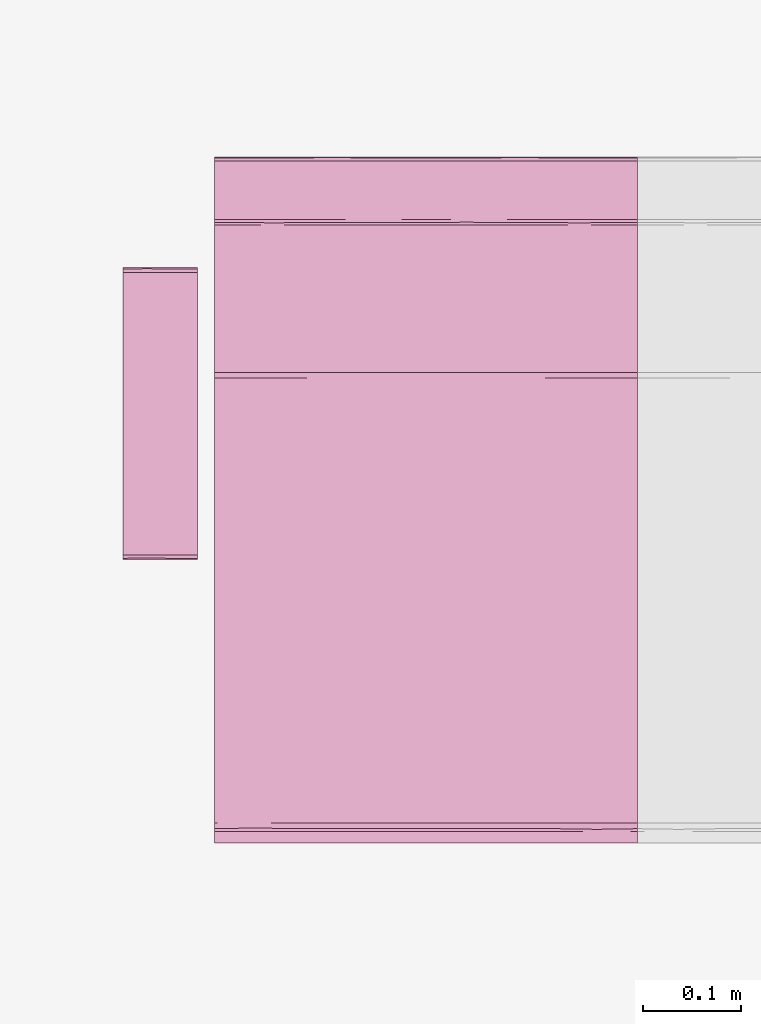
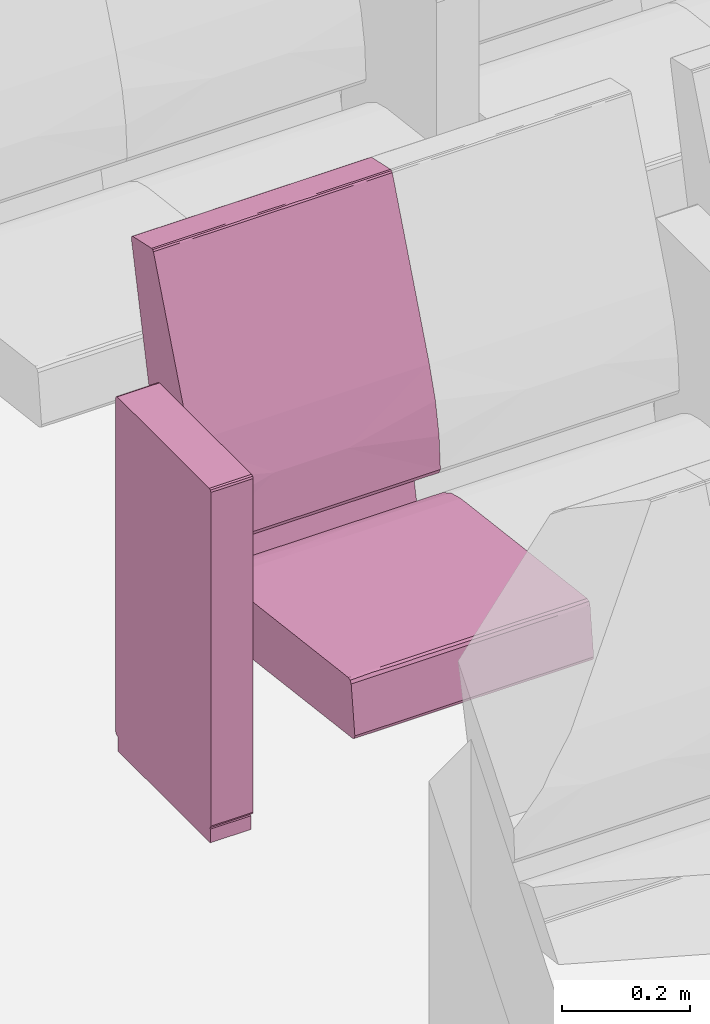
# One storey, part 105 of 155: 1 furnishing.
"""IFC2X3 building model written with IfcOpenShell, lengths in metres."""

from ifc_helpers import new_model, entity, si_unit, converted_unit, derived_unit, direction, frame, origin, place, context, subcontext, project, spatial, faceted_brep, source, transform, mapped, material, material_list, type_object, type_shapes, element, save


model = new_model("IFC2X3")

# Units and contexts
model_context = context("Model", 3, precision=1e-05, world=origin(), true_north=direction((6.12303176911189e-17, 1.0)))
body_context = subcontext(model_context, "Body", "Model", "MODEL_VIEW")
ifc_project = project(units=[si_unit("LENGTHUNIT", "METRE"), si_unit("AREAUNIT", "SQUARE_METRE"), si_unit("VOLUMEUNIT", "CUBIC_METRE"), converted_unit("PLANEANGLEUNIT", "DEGREE", entity("IfcRatioMeasure", 0.0174532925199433), si_unit("PLANEANGLEUNIT", "RADIAN"), dimensions=[0, 0, 0, 0, 0, 0, 0]), si_unit("MASSUNIT", "GRAM", prefix="KILO"), derived_unit("MASSDENSITYUNIT", [(si_unit("MASSUNIT", "GRAM", prefix="KILO"), 1), (si_unit("LENGTHUNIT", "METRE"), -3)]), si_unit("TIMEUNIT", "SECOND"), si_unit("FREQUENCYUNIT", "HERTZ"), si_unit("THERMODYNAMICTEMPERATUREUNIT", "DEGREE_CELSIUS"), derived_unit("THERMALTRANSMITTANCEUNIT", [(si_unit("MASSUNIT", "GRAM", prefix="KILO"), 1), (si_unit("THERMODYNAMICTEMPERATUREUNIT", "KELVIN"), -1), (si_unit("TIMEUNIT", "SECOND"), -3)]), derived_unit("VOLUMETRICFLOWRATEUNIT", [(si_unit("LENGTHUNIT", "METRE"), 3), (si_unit("TIMEUNIT", "SECOND"), -1)]), si_unit("ELECTRICCURRENTUNIT", "AMPERE"), si_unit("ELECTRICVOLTAGEUNIT", "VOLT"), si_unit("POWERUNIT", "WATT"), si_unit("FORCEUNIT", "NEWTON", prefix="KILO"), si_unit("ILLUMINANCEUNIT", "LUX"), si_unit("LUMINOUSFLUXUNIT", "LUMEN"), si_unit("LUMINOUSINTENSITYUNIT", "CANDELA"), derived_unit("USERDEFINED", [(si_unit("MASSUNIT", "GRAM", prefix="KILO"), -1), (si_unit("LENGTHUNIT", "METRE"), -2), (si_unit("TIMEUNIT", "SECOND"), 3), (si_unit("LUMINOUSFLUXUNIT", "LUMEN"), 1)]), derived_unit("LINEARVELOCITYUNIT", [(si_unit("LENGTHUNIT", "METRE"), 1), (si_unit("TIMEUNIT", "SECOND"), -1)]), si_unit("PRESSUREUNIT", "PASCAL"), derived_unit("USERDEFINED", [(si_unit("LENGTHUNIT", "METRE"), -2), (si_unit("MASSUNIT", "GRAM", prefix="KILO"), 1), (si_unit("TIMEUNIT", "SECOND"), -2)])], contexts=[model_context])

# Site, building, storey, space
site_placement = place(None, frame((26.9889013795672, -17.5624287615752, 0.0)))
site = spatial("IfcSite", under=ifc_project, at=site_placement, Name="Default", CompositionType="ELEMENT")
building_placement = place(site_placement, origin())
building = spatial("IfcBuilding", under=site, at=building_placement, Name="C. C. L. Monsenhor Antônio Sampaio", CompositionType="ELEMENT")
storey_placement = place(building_placement, frame((0.0, 0.0, 1.19999999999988)))
storey = spatial("IfcBuildingStorey", under=building, at=storey_placement, Name="Nível 1.2", CompositionType="ELEMENT", Elevation=1.19999999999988)
space_placement = place(storey_placement, origin())
space = spatial("IfcSpace", under=storey, at=space_placement, Name="94", CompositionType="ELEMENT", InteriorOrExteriorSpace="INTERNAL")

# Furnishing
ifc_material_1 = material(Name="V9 - V9 - Ecopelle_672_658")
ifc_material_2 = material(Name="V9 - V9 - RAL_9006_Grigio")
ifc_material_list_1 = material_list([ifc_material_1, ifc_material_2])
ifc_material_list_2 = material_list([ifc_material_1, ifc_material_2])
furniture_type = type_object("IfcFurnitureType", Name="Cadeira auditório", material=ifc_material_list_2)
shared_shape = source(origin(), body_context, "Body", "Brep", [
    faceted_brep([(0.405536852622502, 0.156348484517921, 0.339809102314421), (0.410560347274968, 0.131924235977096, 0.34246450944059), (0.405536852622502, 0.1075, 0.339809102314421), (0.405536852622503, 0.0537499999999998, 0.339809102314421), (0.410597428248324, 0.084060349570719, 0.342506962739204), (0.41079981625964, 0.0179166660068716, 0.342749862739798), (0.405536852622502, 0.215, 0.339809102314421), (0.410248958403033, 0.173608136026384, 0.342130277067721), (0.412515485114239, 0.185674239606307, 0.348529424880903), (0.412515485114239, 0.143333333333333, 0.348529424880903), (0.410560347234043, -0.131924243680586, 0.342464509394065), (0.405536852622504, -0.156348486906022, 0.33980910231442), (0.405536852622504, -0.1075, 0.33980910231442), (0.405536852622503, 0.0, 0.33980910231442), (0.41251548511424, 0.0, 0.348529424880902), (0.411170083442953, -0.0341365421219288, 0.343251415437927), (0.41059742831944, -0.0840603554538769, 0.342506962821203), (0.41251548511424, -0.143333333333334, 0.348529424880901), (0.412515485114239, 0.0358333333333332, 0.348529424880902), (0.412515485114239, 0.0716666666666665, 0.348529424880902), (0.405536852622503, -0.0537500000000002, 0.33980910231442), (0.412515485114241, -0.185674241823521, 0.348529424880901), (0.410799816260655, -0.215, 0.342749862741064), (0.410248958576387, -0.173608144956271, 0.342130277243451), (0.410799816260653, 0.215, 0.342749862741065), (0.412515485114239, 0.215, 0.348529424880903), (0.412515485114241, -0.215, 0.348529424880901), (0.41251548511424, -0.0716666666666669, 0.348529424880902), (0.405536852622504, -0.215, 0.33980910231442), (-0.0557900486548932, -0.215, 0.28268145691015), (-0.055790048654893, -0.168631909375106, 0.282681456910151), (-0.0557900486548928, -0.138065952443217, 0.282681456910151), (-0.0557900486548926, -0.107499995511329, 0.282681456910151), (-0.0557900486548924, -0.0806249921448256, 0.282681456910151), (-0.0557900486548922, -0.0537499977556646, 0.282681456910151), (-0.0557900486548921, -0.0268750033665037, 0.282681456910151), (-0.0557900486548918, 0.0, 0.28268145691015), (-0.0557900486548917, 0.0268749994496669, 0.282681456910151), (-0.0557900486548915, 0.0537499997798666, 0.282681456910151), (-0.0557900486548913, 0.0806250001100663, 0.282681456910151), (-0.0557900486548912, 0.107499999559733, 0.282681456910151), (-0.055790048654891, 0.134374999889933, 0.282681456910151), (-0.0557900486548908, 0.161250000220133, 0.282681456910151), (-0.0557900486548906, 0.1881249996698, 0.282681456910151), (-0.0557900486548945, 0.215, 0.28268145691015), (-0.0594787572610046, -0.0152829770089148, 0.283700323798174), (-0.0613666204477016, 0.0, 0.287029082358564), (-0.0594787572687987, 0.0179017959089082, 0.283700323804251), (-0.0613666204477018, 0.191815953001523, 0.287029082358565), (-0.0613666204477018, 0.215, 0.287029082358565), (-0.0594787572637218, 0.215, 0.283700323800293), (-0.0593340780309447, 0.0671874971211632, 0.283591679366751), (-0.0613666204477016, 0.030565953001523, 0.287029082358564), (-0.0594787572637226, -0.215, 0.283700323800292), (-0.0593337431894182, -0.184174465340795, 0.283591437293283), (-0.0613666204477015, -0.122263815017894, 0.287029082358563), (-0.0613666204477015, -0.0916978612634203, 0.287029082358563), (-0.0613666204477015, -0.0611319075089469, 0.287029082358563), (-0.0593023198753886, -0.0940625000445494, 0.283568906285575), (-0.059382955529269, 0.118123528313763, 0.28362747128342), (-0.0613666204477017, 0.122263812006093, 0.287029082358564), (-0.0597338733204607, 0.147039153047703, 0.283913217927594), (-0.0613666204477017, 0.168631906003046, 0.287029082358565), (-0.0592501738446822, 0.180223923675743, 0.283532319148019), (-0.0588783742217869, 0.0926899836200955, 0.283298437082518), (-0.0613666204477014, -0.215, 0.287029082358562), (-0.0613666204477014, -0.168631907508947, 0.287029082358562), (-0.0592576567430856, -0.123736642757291, 0.283537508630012), (-0.0594787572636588, -0.153348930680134, 0.283700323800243), (-0.0613666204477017, 0.0916978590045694, 0.287029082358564), (-0.0613666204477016, -0.0305659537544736, 0.287029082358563), (-0.059645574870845, -0.045848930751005, 0.283836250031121), (-0.0613666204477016, 0.0611319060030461, 0.287029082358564), (-0.069340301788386, -0.215, 0.351419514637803), (-0.0693403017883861, -0.143333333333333, 0.351419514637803), (-0.0693403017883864, -0.0716666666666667, 0.351419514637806), (-0.0693403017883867, 0.0, 0.351419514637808), (-0.069340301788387, 0.0716666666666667, 0.351419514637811), (-0.0693403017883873, 0.143333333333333, 0.351419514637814), (-0.0693403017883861, 0.215, 0.351419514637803), (-0.0597085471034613, 0.0, 0.37476954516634), (-0.0645543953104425, 0.112272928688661, 0.369803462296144), (-0.0653387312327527, 0.0126787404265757, 0.368680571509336), (-0.0681665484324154, -0.0888707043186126, 0.36292533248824), (-0.0655136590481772, -0.10440004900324, 0.368411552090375), (-0.0694879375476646, 0.0590582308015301, 0.356377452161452), (-0.0695056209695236, -0.125492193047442, 0.356093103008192), (-0.0597085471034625, -0.110316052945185, 0.374769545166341), (-0.0690003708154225, 0.132942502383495, 0.359900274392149), (-0.0672851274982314, 0.108066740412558, 0.365148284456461), (-0.0676206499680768, 0.215, 0.364371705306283), (-0.0686241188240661, 0.215, 0.356813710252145), (-0.0686241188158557, -0.214999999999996, 0.356813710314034), (-0.0686999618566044, 0.0358333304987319, 0.36116674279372), (-0.0694502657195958, -0.0358333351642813, 0.356863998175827), (-0.0676206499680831, -0.214999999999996, 0.364371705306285), (-0.0636645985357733, -0.214999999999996, 0.369570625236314), (-0.0597085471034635, -0.214999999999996, 0.374769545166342), (-0.0597085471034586, 0.215, 0.374769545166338), (-0.0636645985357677, 0.215, 0.36957062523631), (-0.0597085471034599, 0.110316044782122, 0.374769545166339), (-0.0324117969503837, 0.215, 0.390639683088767), (-0.0324117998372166, 0.0436847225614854, 0.39063968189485), (-0.0018793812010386, 0.215, 0.398686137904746), (-0.041847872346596, -0.0856576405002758, 0.386239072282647), (-0.0324117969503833, -0.215, 0.390639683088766), (-0.00187938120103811, -0.215, 0.398686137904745), (-0.00187938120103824, -0.102488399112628, 0.398686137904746), (-0.0219042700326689, -0.0570631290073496, 0.394412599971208), (-0.00187938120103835, 0.0, 0.398686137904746), (0.392202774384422, 0.215, 0.447486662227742), (0.392202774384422, -0.215, 0.447486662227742), (0.392202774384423, -0.156349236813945, 0.447486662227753), (0.392202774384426, -0.107499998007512, 0.447486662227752), (0.392202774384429, -0.0537500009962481, 0.44748666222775), (0.392202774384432, 0.0, 0.447486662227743), (0.392202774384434, 0.0537499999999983, 0.447486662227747), (0.392202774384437, 0.107499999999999, 0.447486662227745), (0.392202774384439, 0.156349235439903, 0.447486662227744), (0.398104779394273, -0.131924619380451, 0.445856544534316), (0.401125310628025, -0.0976984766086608, 0.440530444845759), (0.397860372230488, -0.0827732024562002, 0.446039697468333), (0.401125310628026, -0.215000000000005, 0.440530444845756), (0.401125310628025, -0.156349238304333, 0.440530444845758), (0.397373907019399, -0.173462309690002, 0.446363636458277), (0.398104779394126, -0.215000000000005, 0.445856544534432), (0.397860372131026, 0.0827731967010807, 0.446039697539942), (0.398104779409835, 0.131924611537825, 0.445856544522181), (0.398104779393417, -0.0237489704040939, 0.445856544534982), (0.398104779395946, 0.0268749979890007, 0.445856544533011), (0.401125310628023, 0.0488492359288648, 0.440530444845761), (0.401125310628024, -0.0488492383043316, 0.440530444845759), (0.398774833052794, 0.173462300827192, 0.445271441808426), (0.401125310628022, 0.097698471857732, 0.440530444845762), (0.401125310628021, 0.215, 0.440530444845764), (0.39810477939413, 0.215, 0.445856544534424), (0.401125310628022, 0.156349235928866, 0.440530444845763), (0.401125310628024, 0.0, 0.44053044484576)], [[[0, 1, 2]], [[3, 4, 5]], [[6, 7, 0]], [[7, 8, 9]], [[10, 11, 12]], [[3, 5, 13]], [[14, 15, 5]], [[16, 17, 10]], [[9, 1, 7]], [[18, 5, 4]], [[4, 9, 19, 18]], [[9, 4, 1]], [[2, 1, 4]], [[13, 15, 20]], [[21, 22, 23]], [[5, 18, 14]], [[24, 25, 8]], [[22, 21, 26]], [[24, 7, 6]], [[23, 11, 10]], [[20, 15, 16]], [[3, 2, 4]], [[14, 27, 15]], [[5, 15, 13]], [[27, 17, 16]], [[10, 12, 16]], [[21, 23, 17]], [[20, 16, 12]], [[15, 27, 16]], [[7, 1, 0]], [[28, 11, 23]], [[8, 7, 24]], [[23, 10, 17]], [[28, 23, 22]], [[28, 29, 30, 31, 32, 33, 34, 35, 36, 37, 38, 39, 40, 41, 42, 43, 44, 6, 0, 2, 3, 13, 20, 12, 11]], [[45, 46, 47]], [[48, 49, 50]], [[51, 47, 52]], [[29, 53, 54]], [[55, 56, 57, 58]], [[59, 60, 61]], [[61, 62, 63]], [[51, 64, 39]], [[65, 66, 54]], [[31, 67, 32]], [[45, 47, 38, 37, 36, 35]], [[68, 31, 30]], [[43, 50, 44]], [[63, 42, 61]], [[48, 50, 63]], [[64, 69, 59]], [[68, 54, 66]], [[63, 62, 48]], [[50, 43, 63]], [[67, 55, 58]], [[61, 42, 41]], [[45, 70, 46]], [[55, 68, 66]], [[71, 33, 58]], [[71, 57, 70]], [[41, 40, 59]], [[60, 62, 61]], [[71, 35, 34, 33]], [[35, 71, 45]], [[47, 46, 52]], [[45, 71, 70]], [[58, 57, 71]], [[32, 58, 33]], [[31, 68, 67]], [[54, 68, 30]], [[29, 54, 30]], [[54, 53, 65]], [[55, 67, 68]], [[32, 67, 58]], [[51, 52, 72, 69]], [[43, 42, 63]], [[41, 59, 61]], [[47, 51, 38]], [[40, 39, 64]], [[38, 51, 39]], [[69, 60, 59]], [[69, 64, 51]], [[40, 64, 59]], [[65, 73, 74, 75, 76, 77, 78, 79, 49, 48, 62, 60, 69, 72, 52, 46, 70, 57, 56, 55, 66]], [[80, 81, 82]], [[82, 83, 84]], [[78, 77, 76, 85]], [[86, 75, 74]], [[84, 80, 82]], [[80, 84, 87]], [[88, 89, 90]], [[91, 79, 78]], [[74, 73, 92]], [[85, 88, 91]], [[81, 89, 82]], [[93, 94, 83]], [[94, 86, 83]], [[85, 76, 94]], [[92, 86, 74]], [[85, 94, 93]], [[83, 92, 95]], [[75, 94, 76]], [[93, 83, 82]], [[95, 96, 84]], [[88, 85, 93]], [[96, 97, 87]], [[98, 99, 100]], [[78, 85, 91]], [[89, 88, 93]], [[90, 91, 88]], [[93, 82, 89]], [[81, 99, 89]], [[99, 90, 89]], [[100, 81, 80]], [[100, 99, 81]], [[83, 86, 92]], [[75, 86, 94]], [[95, 84, 83]], [[87, 84, 96]], [[101, 102, 103]], [[104, 80, 87, 97]], [[105, 106, 107]], [[107, 108, 105]], [[103, 102, 109]], [[104, 102, 80]], [[104, 108, 102]], [[98, 102, 101]], [[105, 104, 97]], [[105, 108, 104]], [[102, 98, 100, 80]], [[109, 108, 107]], [[109, 102, 108]], [[110, 103, 109, 107, 106, 111, 112, 113, 114, 115, 116, 117, 118]], [[119, 120, 121]], [[122, 123, 124]], [[111, 125, 124]], [[117, 116, 126]], [[124, 119, 112]], [[113, 112, 119]], [[127, 118, 117]], [[115, 114, 128, 129, 116]], [[129, 130, 126]], [[121, 131, 128]], [[127, 132, 118]], [[110, 118, 132]], [[127, 126, 133]], [[119, 124, 123]], [[134, 135, 132]], [[136, 132, 127]], [[120, 119, 123]], [[133, 136, 127]], [[137, 130, 129, 128, 131]], [[126, 127, 117]], [[130, 133, 126]], [[113, 119, 121]], [[129, 126, 116]], [[128, 114, 121]], [[114, 113, 121]], [[131, 121, 120]], [[111, 124, 112]], [[124, 125, 122]], [[134, 132, 136]], [[132, 135, 110]], [[19, 9, 8, 25, 134, 136, 133, 130, 137, 131, 120, 123, 122, 26, 21, 17, 27, 14, 18]], [[65, 53, 29, 28, 22, 26, 122, 125, 111, 106, 105, 97, 96, 95, 92, 73]], [[98, 101, 103, 110, 135, 134, 25, 24, 6, 44, 50, 49, 79, 91, 90, 99]]]),
    faceted_brep([(0.123144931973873, -0.283972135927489, 0.673627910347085), (0.12334838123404, -0.259944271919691, 0.6734355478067), (0.119812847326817, -0.27, 0.674900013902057), (0.124812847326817, -0.27, 0.669900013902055), (0.12334838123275, -0.232, 0.673435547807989), (0.119812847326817, -0.232, 0.674900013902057), (0.124812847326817, -0.308, 0.669900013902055), (0.119812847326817, -0.308, 0.674900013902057), (0.124812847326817, -0.249888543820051, 0.669900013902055), (0.124812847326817, -0.232, 0.669900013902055), (0.12334838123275, -0.308, 0.673435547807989), (0.124812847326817, -0.27, 0.035), (0.124812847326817, -0.232, 0.035), (0.124812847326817, -0.308, 0.0350000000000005), (0.123540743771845, -0.283972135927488, 0.0316679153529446), (0.12334838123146, -0.25994427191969, 0.0314644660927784), (0.119812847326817, -0.27, 0.0300000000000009), (0.12334838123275, -0.232, 0.0314644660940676), (0.119812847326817, -0.308, 0.0300000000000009), (0.119812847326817, -0.249888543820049, 0.030000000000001), (0.119812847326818, -0.232, 0.030000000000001), (0.123348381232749, -0.308, 0.0314644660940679), (-0.167179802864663, -0.308, 0.0300000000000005), (-0.167179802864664, -0.27, 0.0300000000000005), (-0.167179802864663, -0.232, 0.0300000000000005), (-0.17051188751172, -0.283972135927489, 0.0312721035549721), (-0.170715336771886, -0.25994427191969, 0.0314644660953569), (-0.172179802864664, -0.27, 0.0350000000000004), (-0.170715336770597, -0.232, 0.0314644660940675), (-0.172179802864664, -0.308, 0.0350000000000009), (-0.172179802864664, -0.24988854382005, 0.0350000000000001), (-0.172179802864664, -0.232, 0.0349999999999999), (-0.170715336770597, -0.308, 0.0314644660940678), (-0.172179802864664, -0.308, 0.669900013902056), (-0.172179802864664, -0.27, 0.669900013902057), (-0.172179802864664, -0.232, 0.669900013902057), (-0.170907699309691, -0.283972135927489, 0.673232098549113), (-0.170715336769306, -0.259944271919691, 0.673435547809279), (-0.167179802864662, -0.27, 0.674900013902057), (-0.170715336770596, -0.232, 0.67343554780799), (-0.167179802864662, -0.308, 0.674900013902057), (-0.167179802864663, -0.249888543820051, 0.674900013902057), (-0.167179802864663, -0.232, 0.674900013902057), (-0.170715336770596, -0.308, 0.67343554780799)], [[[0, 1, 2]], [[1, 0, 3]], [[1, 4, 5, 2]], [[6, 3, 0]], [[7, 0, 2]], [[4, 1, 3, 8, 9]], [[10, 0, 7]], [[0, 10, 6]], [[11, 12, 9, 8, 3, 6, 13]], [[14, 15, 11]], [[15, 14, 16]], [[15, 17, 12, 11]], [[18, 16, 14]], [[13, 14, 11]], [[17, 15, 16, 19, 20]], [[21, 14, 13]], [[14, 21, 18]], [[18, 22, 23, 24, 20, 19, 16]], [[25, 26, 23]], [[26, 25, 27]], [[26, 28, 24, 23]], [[29, 27, 25]], [[22, 25, 23]], [[28, 26, 27, 30, 31]], [[32, 25, 22]], [[25, 32, 29]], [[27, 29, 33, 34, 35, 31, 30]], [[36, 37, 34]], [[37, 36, 38]], [[37, 39, 35, 34]], [[40, 38, 36]], [[33, 36, 34]], [[39, 37, 38, 41, 42]], [[43, 36, 33]], [[36, 43, 40]], [[40, 7, 2, 5, 42, 41, 38]], [[35, 39, 42, 5, 4, 9, 12, 17, 20, 24, 28, 31]], [[29, 32, 22, 18, 21, 13, 6, 10, 7, 40, 43, 33]]]),
    faceted_brep([(-0.0695672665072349, 0.215, 0.476508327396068), (-0.074405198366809, 0.0524423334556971, 0.506888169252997), (-0.0655618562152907, 0.215, 0.415143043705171), (-0.0744051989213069, -0.0780075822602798, 0.506888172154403), (-0.0655618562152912, 0.0, 0.415143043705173), (-0.0655618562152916, -0.215, 0.415143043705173), (-0.0655618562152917, -0.1075, 0.415143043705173), (-0.0655618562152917, 0.1075, 0.415143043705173), (-0.0695672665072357, -0.215, 0.476508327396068), (-0.081111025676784, -0.215, 0.536911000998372), (-0.0811110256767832, 0.215, 0.536911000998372), (-0.100016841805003, 0.215, 0.595428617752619), (-0.100016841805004, 0.0, 0.595428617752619), (-0.100016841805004, -0.215, 0.595428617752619), (-0.0698317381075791, 0.0358333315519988, 0.406528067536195), (-0.0792851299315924, 0.0, 0.404772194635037), (-0.0792851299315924, 0.0716666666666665, 0.404772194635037), (-0.0792851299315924, -0.215, 0.404772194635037), (-0.0792851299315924, -0.143333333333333, 0.404772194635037), (-0.0698317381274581, -0.215, 0.406528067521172), (-0.0792851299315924, 0.143333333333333, 0.404772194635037), (-0.0792851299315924, 0.215, 0.404772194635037), (-0.0698317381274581, 0.215, 0.406528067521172), (-0.0694171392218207, 0.140338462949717, 0.406857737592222), (-0.0708115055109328, -0.0356393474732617, 0.405868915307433), (-0.0703502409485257, -0.107500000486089, 0.406159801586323), (-0.0792851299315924, -0.0716666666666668, 0.404772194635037), (-0.163837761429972, -0.215, 0.420611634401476), (-0.163837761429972, 0.215, 0.420611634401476), (-0.123612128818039, 0.215, 0.235917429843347), (-0.123612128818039, -0.215, 0.235917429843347), (-0.142059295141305, -0.215, 0.231899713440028), (-0.142059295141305, 0.215, 0.231899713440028), (-0.235388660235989, -0.215, 0.652619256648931), (-0.235388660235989, 0.215, 0.652619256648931), (-0.28428001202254, -0.215, 0.873004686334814), (-0.284280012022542, -0.191295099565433, 0.873004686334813), (-0.284280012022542, -0.161249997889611, 0.873004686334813), (-0.284280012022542, -0.134374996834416, 0.873004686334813), (-0.284280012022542, -0.107499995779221, 0.873004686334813), (-0.284280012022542, -0.0806249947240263, 0.873004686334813), (-0.284280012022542, -0.0537499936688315, 0.873004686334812), (-0.284280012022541, -0.0268749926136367, 0.873004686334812), (-0.28428001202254, 0.0, 0.873004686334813), (-0.284280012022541, 0.0268749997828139, 0.873004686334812), (-0.284280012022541, 0.0537500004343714, 0.873004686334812), (-0.284280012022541, 0.0806250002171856, 0.873004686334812), (-0.284280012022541, 0.1075, 0.873004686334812), (-0.284280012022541, 0.134374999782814, 0.873004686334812), (-0.28428001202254, 0.161249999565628, 0.873004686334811), (-0.28428001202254, 0.191295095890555, 0.873004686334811), (-0.28428001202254, 0.215, 0.873004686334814), (-0.283746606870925, 0.0872244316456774, 0.876674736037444), (-0.283504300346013, 0.0569644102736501, 0.877068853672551), (-0.283567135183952, -0.15546176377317, 0.876973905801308), (-0.283641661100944, -0.12093750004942, 0.87685511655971), (-0.283567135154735, 0.155461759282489, 0.876973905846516), (-0.28330409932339, 0.185293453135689, 0.877344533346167), (-0.283641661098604, 0.0179166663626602, 0.876855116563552), (-0.283641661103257, -0.0136463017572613, 0.876855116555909), (-0.280514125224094, -0.0358333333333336, 0.879190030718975), (-0.280514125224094, 0.0, 0.879190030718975), (-0.280514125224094, 0.0358333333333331, 0.879190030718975), (-0.280514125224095, -0.143333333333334, 0.879190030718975), (-0.280514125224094, -0.1075, 0.879190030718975), (-0.280514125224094, -0.071666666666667, 0.879190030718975), (-0.283746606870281, -0.0872244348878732, 0.876674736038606), (-0.280514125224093, 0.0716666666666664, 0.879190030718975), (-0.280514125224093, 0.1075, 0.879190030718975), (-0.283641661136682, 0.120937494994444, 0.876855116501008), (-0.280514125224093, 0.143333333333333, 0.879190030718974), (-0.283641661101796, 0.215, 0.876855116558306), (-0.283641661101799, -0.215, 0.876855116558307), (-0.283304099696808, -0.18529345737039, 0.877344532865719), (-0.280514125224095, -0.167590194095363, 0.879190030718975), (-0.280514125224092, 0.215, 0.879190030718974), (-0.280514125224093, 0.167590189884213, 0.879190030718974), (-0.280514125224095, -0.215, 0.879190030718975), (-0.283504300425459, -0.0569644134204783, 0.8770688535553), (-0.22111253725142, 0.215, 0.892176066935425), (-0.22111253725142, -0.215, 0.892176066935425), (-0.221112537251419, -0.191815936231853, 0.892176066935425), (-0.221112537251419, -0.161250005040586, 0.892176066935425), (-0.221112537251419, -0.134375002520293, 0.892176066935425), (-0.221112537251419, -0.1075, 0.892176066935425), (-0.221112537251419, -0.080624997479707, 0.892176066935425), (-0.221112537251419, -0.0537499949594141, 0.892176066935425), (-0.221112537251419, -0.0268750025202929, 0.892176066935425), (-0.221112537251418, 0.0, 0.892176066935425), (-0.221112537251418, 0.0268750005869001, 0.892176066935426), (-0.221112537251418, 0.05375000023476, 0.892176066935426), (-0.221112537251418, 0.0806249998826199, 0.892176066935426), (-0.221112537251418, 0.10749999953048, 0.892176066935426), (-0.221112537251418, 0.13437499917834, 0.892176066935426), (-0.221112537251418, 0.16124999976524, 0.892176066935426), (-0.221112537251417, 0.19181594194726, 0.892176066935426), (-0.215419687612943, 0.0, 0.889191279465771), (-0.215419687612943, 0.0358333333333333, 0.889191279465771), (-0.217722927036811, 0.0162353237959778, 0.891719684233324), (-0.217722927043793, -0.0134375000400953, 0.891719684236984), (-0.215419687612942, -0.191815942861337, 0.889191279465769), (-0.215419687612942, -0.168631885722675, 0.889191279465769), (-0.217722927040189, -0.182482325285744, 0.891719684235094), (-0.217722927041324, -0.215, 0.891719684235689), (-0.215419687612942, -0.215, 0.889191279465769), (-0.215419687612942, -0.1075, 0.88919127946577), (-0.215419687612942, -0.0716666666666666, 0.88919127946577), (-0.217722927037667, -0.0912646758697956, 0.891719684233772), (-0.217722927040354, -0.120937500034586, 0.89171968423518), (-0.215419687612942, -0.143333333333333, 0.88919127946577), (-0.215419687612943, 0.191815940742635, 0.889191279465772), (-0.215419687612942, 0.215, 0.889191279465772), (-0.217722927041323, 0.215, 0.89171968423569), (-0.217722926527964, 0.190103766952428, 0.891719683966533), (-0.217722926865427, 0.0912646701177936, 0.891719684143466), (-0.217816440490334, 0.0647800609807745, 0.891767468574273), (-0.215419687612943, 0.0716666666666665, 0.889191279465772), (-0.217816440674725, -0.0647800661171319, 0.891767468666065), (-0.2179983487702, -0.0390825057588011, 0.891853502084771), (-0.217558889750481, -0.155982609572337, 0.891629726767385), (-0.217722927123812, 0.120937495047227, 0.891719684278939), (-0.215419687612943, 0.16863188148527, 0.889191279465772), (-0.215419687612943, 0.143333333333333, 0.889191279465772), (-0.217558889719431, 0.15598260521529, 0.891629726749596), (-0.215419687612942, -0.0358333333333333, 0.889191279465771), (-0.215419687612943, 0.1075, 0.889191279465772), (-0.218257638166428, 0.0404491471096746, 0.891961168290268)], [[[0, 1, 2]], [[1, 3, 4]], [[3, 5, 6, 4]], [[1, 4, 7, 2]], [[5, 3, 8]], [[8, 3, 9]], [[0, 10, 1]], [[11, 12, 1]], [[3, 13, 9]], [[3, 12, 13]], [[11, 1, 10]], [[3, 1, 12]], [[14, 15, 16]], [[17, 18, 19]], [[20, 21, 22]], [[2, 23, 22]], [[14, 7, 4]], [[14, 24, 15]], [[6, 25, 24]], [[22, 23, 20]], [[14, 23, 7]], [[19, 6, 5]], [[4, 24, 14]], [[16, 23, 14]], [[16, 20, 23]], [[26, 25, 18]], [[25, 19, 18]], [[15, 24, 26]], [[23, 2, 7]], [[19, 25, 6]], [[26, 24, 25]], [[6, 24, 4]], [[15, 26, 18, 17, 27, 28, 21, 20, 16]], [[29, 28, 27, 30]], [[30, 31, 32, 29]], [[32, 31, 33, 34]], [[34, 33, 35, 36, 37, 38, 39, 40, 41, 42, 43, 44, 45, 46, 47, 48, 49, 50, 51]], [[52, 46, 53]], [[38, 54, 55]], [[56, 57, 49]], [[58, 59, 60, 61, 62]], [[63, 64, 55]], [[64, 65, 66]], [[52, 67, 68]], [[69, 70, 56]], [[49, 57, 50]], [[38, 55, 39]], [[71, 51, 50]], [[36, 35, 72]], [[59, 58, 44, 43, 42]], [[73, 74, 54]], [[55, 66, 39]], [[75, 57, 76]], [[77, 74, 73]], [[69, 52, 68]], [[37, 36, 73]], [[54, 74, 63]], [[56, 76, 57]], [[36, 72, 73]], [[75, 71, 57]], [[70, 76, 56]], [[52, 69, 47]], [[48, 47, 69]], [[42, 78, 59]], [[66, 55, 64]], [[50, 57, 71]], [[73, 54, 37]], [[77, 73, 72]], [[48, 69, 56]], [[56, 49, 48]], [[69, 68, 70]], [[53, 46, 45, 44]], [[58, 62, 53]], [[53, 44, 58]], [[38, 37, 54]], [[63, 55, 54]], [[78, 66, 65]], [[78, 40, 66]], [[67, 52, 53]], [[78, 42, 41, 40]], [[65, 60, 78]], [[59, 78, 60]], [[52, 47, 46]], [[40, 39, 66]], [[62, 67, 53]], [[79, 75, 76, 70, 68, 67, 62, 61, 60, 65, 64, 63, 74, 77, 80, 81, 82, 83, 84, 85, 86, 87, 88, 89, 90, 91, 92, 93, 94, 95]], [[96, 97, 98, 99]], [[100, 101, 102, 103, 104]], [[105, 106, 107, 108, 109]], [[110, 111, 112]], [[113, 112, 95]], [[114, 115, 116]], [[117, 118, 86]], [[82, 119, 83]], [[102, 82, 81, 80, 103]], [[112, 79, 95]], [[108, 107, 85, 84, 83]], [[88, 87, 99, 98, 89]], [[119, 101, 109]], [[93, 92, 120]], [[117, 85, 107]], [[113, 121, 110]], [[122, 121, 123]], [[113, 94, 123]], [[124, 99, 118]], [[122, 123, 120]], [[108, 119, 109]], [[113, 110, 112]], [[102, 101, 119]], [[119, 108, 83]], [[114, 125, 120]], [[123, 94, 93]], [[93, 120, 123]], [[114, 120, 92]], [[122, 120, 125]], [[117, 107, 106]], [[114, 92, 91]], [[116, 125, 114]], [[115, 91, 90]], [[85, 117, 86]], [[126, 89, 98]], [[117, 106, 124]], [[118, 99, 87]], [[124, 96, 99]], [[97, 116, 115]], [[97, 115, 126]], [[86, 118, 87]], [[124, 118, 117]], [[91, 115, 114]], [[115, 90, 126]], [[89, 126, 90]], [[97, 126, 98]], [[82, 102, 119]], [[94, 113, 95]], [[121, 113, 123]], [[11, 111, 110, 121, 122, 125, 116, 97, 96, 124, 106, 105, 109, 101, 100, 104, 13, 12]], [[27, 17, 19, 5, 8, 9, 13, 104, 103, 80, 77, 72, 35, 33, 31, 30]], [[51, 71, 75, 79, 112, 111, 11, 10, 0, 2, 22, 21, 28, 29, 32, 34]]]),
    faceted_brep([(0.120312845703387, -0.2335, 0.0), (0.120312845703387, -0.2335, 0.0260000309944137), (0.120312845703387, -0.249500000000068, 0.0260000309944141), (0.120312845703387, -0.27, 0.0260000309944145), (0.120312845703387, -0.3065, 0.0260000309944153), (0.120312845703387, -0.3065, 0.0), (-0.167687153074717, -0.3065, 0.0), (-0.167687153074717, -0.2335, 0.0), (-0.167687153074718, -0.27, 0.0260000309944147), (-0.167687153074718, -0.2335, 0.0260000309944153), (-0.167687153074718, -0.3065, 0.0260000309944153), (-0.166521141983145, -0.233500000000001, 0.0288228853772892), (-0.166521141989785, -0.257382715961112, 0.0288228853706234), (-0.163702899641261, -0.233500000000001, 0.0300000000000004), (-0.163702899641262, -0.3065, 0.0300000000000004), (-0.16652114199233, -0.279986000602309, 0.0288228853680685), (-0.166521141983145, -0.3065, 0.0288228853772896), (-0.163702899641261, -0.27, 0.0300000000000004), (0.116297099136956, -0.3065, 0.0300000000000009), (0.116297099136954, -0.269999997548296, 0.0300000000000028), (0.116297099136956, -0.2335, 0.0300000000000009), (0.119033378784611, -0.283124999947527, 0.0289323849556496), (0.1191357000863, -0.2335, 0.0288340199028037), (0.119135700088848, -0.259750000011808, 0.0288340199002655), (0.119135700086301, -0.3065, 0.0288340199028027)], [[[0, 1, 2, 3, 4, 5]], [[0, 5, 6, 7]], [[8, 9, 7, 6, 10]], [[11, 12, 13]], [[14, 15, 16]], [[15, 14, 17, 13, 12]], [[9, 8, 12, 11]], [[16, 15, 10]], [[8, 10, 15, 12]], [[14, 18, 19, 20, 13, 17]], [[21, 4, 3]], [[22, 20, 19, 23]], [[3, 2, 1, 22, 23]], [[24, 21, 18]], [[21, 3, 23]], [[18, 21, 19]], [[21, 24, 4]], [[21, 23, 19]], [[6, 5, 4, 24, 18, 14, 16, 10]], [[7, 9, 11, 13, 20, 22, 1, 0]]]),
])
type_shapes(furniture_type, [shared_shape])
furnishing_placement = place(space_placement, frame((-9.03594929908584, -15.3086263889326, 0.0), z_axis=(0.0, 0.0, 1.0), x_axis=(0.0, -1.0, 0.0)))
element("IfcFurnishingElement", 1, at=furnishing_placement, inside=space, type_object=furniture_type, material=ifc_material_list_1, Name="cadeira auditório pcd:Cadeira auditório", ObjectType="Cadeira auditório", context=body_context, shape_type="MappedRepresentation", body=[
    mapped(shared_shape, transform((0.0, 0.0, 0.0), scale=1.0)),
])

save(model, "model.ifc")
